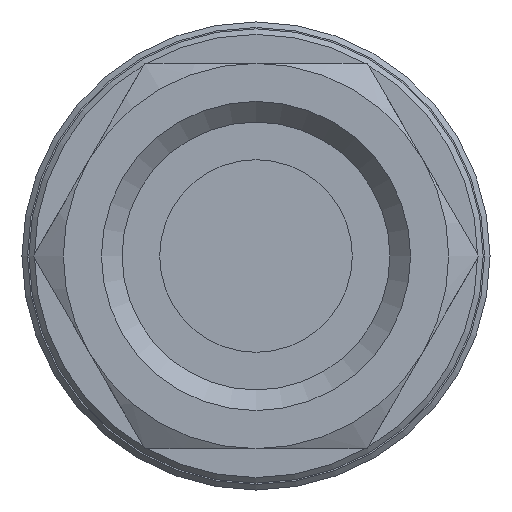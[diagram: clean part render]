
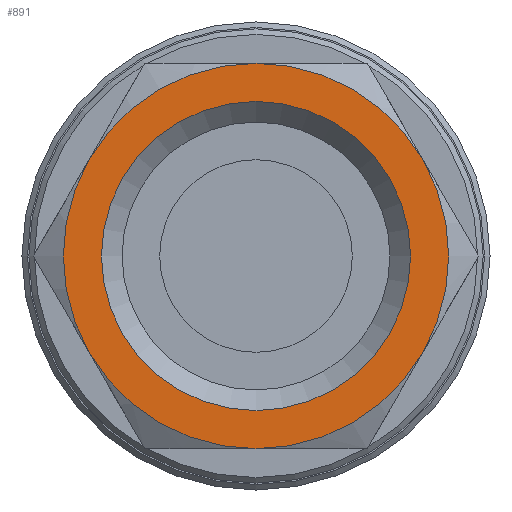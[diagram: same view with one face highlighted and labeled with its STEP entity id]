
A CAD part, front view. The second image highlights one B-rep face of the part: STEP entity #891.
In plain terms, the highlighted planar face has unit normal (0, -1, 0).
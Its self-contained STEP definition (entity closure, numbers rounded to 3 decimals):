
#100=PLANE('',#970);
#129=FACE_BOUND('',#243,.T.);
#166=FACE_OUTER_BOUND('',#242,.T.);
#242=EDGE_LOOP('',(#618,#619,#620,#621,#622,#623));
#243=EDGE_LOOP('',(#624));
#352=CIRCLE('',#968,5.614);
#354=CIRCLE('',#971,7.);
#355=CIRCLE('',#972,7.);
#356=CIRCLE('',#973,7.);
#357=CIRCLE('',#974,7.);
#358=CIRCLE('',#975,7.);
#359=CIRCLE('',#976,7.);
#412=VERTEX_POINT('',#1388);
#414=VERTEX_POINT('',#1393);
#415=VERTEX_POINT('',#1394);
#416=VERTEX_POINT('',#1396);
#417=VERTEX_POINT('',#1398);
#418=VERTEX_POINT('',#1400);
#419=VERTEX_POINT('',#1402);
#496=EDGE_CURVE('',#412,#412,#352,.T.);
#498=EDGE_CURVE('',#414,#415,#354,.T.);
#499=EDGE_CURVE('',#415,#416,#355,.T.);
#500=EDGE_CURVE('',#416,#417,#356,.T.);
#501=EDGE_CURVE('',#417,#418,#357,.T.);
#502=EDGE_CURVE('',#418,#419,#358,.T.);
#503=EDGE_CURVE('',#419,#414,#359,.T.);
#618=ORIENTED_EDGE('',*,*,#498,.T.);
#619=ORIENTED_EDGE('',*,*,#499,.T.);
#620=ORIENTED_EDGE('',*,*,#500,.T.);
#621=ORIENTED_EDGE('',*,*,#501,.T.);
#622=ORIENTED_EDGE('',*,*,#502,.T.);
#623=ORIENTED_EDGE('',*,*,#503,.T.);
#624=ORIENTED_EDGE('',*,*,#496,.F.);
#891=ADVANCED_FACE('',(#166,#129),#100,.T.);
#968=AXIS2_PLACEMENT_3D('',#1389,#1106,#1107);
#970=AXIS2_PLACEMENT_3D('',#1392,#1110,#1111);
#971=AXIS2_PLACEMENT_3D('',#1395,#1112,#1113);
#972=AXIS2_PLACEMENT_3D('',#1397,#1114,#1115);
#973=AXIS2_PLACEMENT_3D('',#1399,#1116,#1117);
#974=AXIS2_PLACEMENT_3D('',#1401,#1118,#1119);
#975=AXIS2_PLACEMENT_3D('',#1403,#1120,#1121);
#976=AXIS2_PLACEMENT_3D('',#1404,#1122,#1123);
#1106=DIRECTION('center_axis',(0.,-1.,0.));
#1107=DIRECTION('ref_axis',(-1.,0.,0.));
#1110=DIRECTION('center_axis',(0.,-1.,0.));
#1111=DIRECTION('ref_axis',(0.,0.,-1.));
#1112=DIRECTION('center_axis',(0.,-1.,0.));
#1113=DIRECTION('ref_axis',(-1.,0.,0.));
#1114=DIRECTION('center_axis',(0.,-1.,0.));
#1115=DIRECTION('ref_axis',(-1.,0.,0.));
#1116=DIRECTION('center_axis',(0.,-1.,0.));
#1117=DIRECTION('ref_axis',(-1.,0.,0.));
#1118=DIRECTION('center_axis',(0.,-1.,0.));
#1119=DIRECTION('ref_axis',(-1.,0.,0.));
#1120=DIRECTION('center_axis',(0.,-1.,0.));
#1121=DIRECTION('ref_axis',(-1.,0.,0.));
#1122=DIRECTION('center_axis',(0.,-1.,0.));
#1123=DIRECTION('ref_axis',(-1.,0.,0.));
#1388=CARTESIAN_POINT('',(5.614,0.,0.));
#1389=CARTESIAN_POINT('Origin',(0.,0.,0.));
#1392=CARTESIAN_POINT('Origin',(4.864,0.,0.));
#1393=CARTESIAN_POINT('',(6.062,0.,3.5));
#1394=CARTESIAN_POINT('',(0.,0.,7.));
#1395=CARTESIAN_POINT('Origin',(0.,0.,0.));
#1396=CARTESIAN_POINT('',(-6.062,0.,3.5));
#1397=CARTESIAN_POINT('Origin',(0.,0.,0.));
#1398=CARTESIAN_POINT('',(-6.062,0.,-3.5));
#1399=CARTESIAN_POINT('Origin',(0.,0.,0.));
#1400=CARTESIAN_POINT('',(0.,0.,-7.));
#1401=CARTESIAN_POINT('Origin',(0.,0.,0.));
#1402=CARTESIAN_POINT('',(6.062,0.,-3.5));
#1403=CARTESIAN_POINT('Origin',(0.,0.,0.));
#1404=CARTESIAN_POINT('Origin',(0.,0.,0.));
